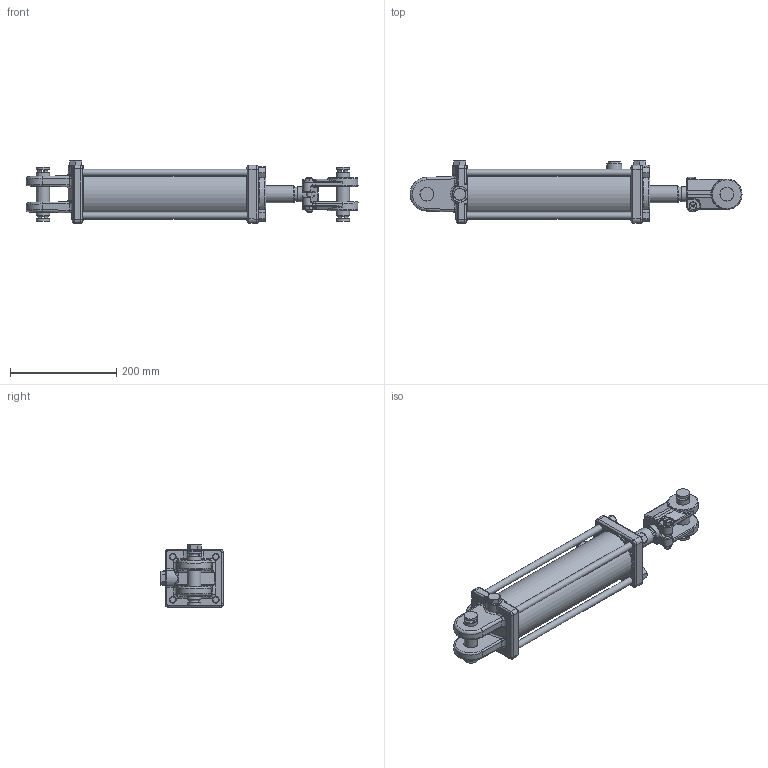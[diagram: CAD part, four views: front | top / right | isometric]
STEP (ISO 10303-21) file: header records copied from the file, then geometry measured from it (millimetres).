
FILE_DESCRIPTION((''),'2;1');
FILE_NAME('C:\Vault\Workspace\Vest\PMS-AM-2623V.stp','2009-09-25T10:44:21',('newtonb'),(''),'Autodesk Inventor 2008','Autodesk Inventor 2008','');
FILE_SCHEMA(('AUTOMOTIVE_DESIGN { 1 0 10303 214 1 1 1 1 }'));
Length unit declared in the file: inch
Products named in the file (28): PMS-AM-2623V; 061600055V; 051600063V; 200300181V; 141600002V; 081600038V; 081600039V; 210600293V; 010600437V; 100000423V; 100000422V; 170002104V; 220000203V; 071600048V; 220000209V; 240064325V; 240061234V; 240000234V; 240011097V; 240000026V; 250014125V; 240020184V; 200300104V; 200300040V; 190400004V; 170201143AV; 170201143V; 220000105V
Assembly tree (35 placements, depth 3):
  PMS-AM-2623V
    061600055V
      051600063V
      200300181V
    141600002V
    081600038V
      081600039V
      210600293V
    010600437V
    100000423V
      100000422V
      170002104V
      220000203V
    071600048V
    220000209V
    240064325V
    240061234V  x2
    240000234V  x2
    240011097V
    240000026V
    250014125V
    240020184V
    200300104V
    200300040V  x3
    190400004V  x2
    170201143AV  x4
      170201143V
      220000105V
Bounding box: 625.45 x 117.97 x 117.97 mm (x, y, z)
Volume: 2102466.9 mm3; surface area: 526691.1 mm2
Topology: 34 solids, 34 shells, 927 faces, 2074 edges, 1217 vertices
Faces by surface type: plane 260, bspline 242, cylinder 228, cone 161, torus 23, sphere 13
Full cylindrical faces by diameter (mm): 1.575 x1, 2.769 x1, 5.156 x2, 5.159 x2, 9.493 x1, 10.319 x2, 12.7 x4, 16.764 x3, 19.05 x4, 22.174 x1, 22.301 x1, 22.352 x1, 25.4 x6, 25.781 x4, 25.806 x1, 28.372 x1, 28.575 x1, 31.725 x2, 31.75 x2, 32.004 x1, 32.702 x1, 33.376 x1, 34.188 x1, 34.798 x1, 35.707 x1, 35.719 x1, 37.948 x1, 38.964 x1, 40.323 x1, 40.488 x1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
Entity records: 34148 total; most frequent: CARTESIAN_POINT 17926, DIRECTION 3099, ORIENTED_EDGE 3066, EDGE_CURVE 1533, AXIS2_PLACEMENT_3D 1326, EDGE_LOOP 1019, VERTEX_POINT 990, FACE_OUTER_BOUND 769
